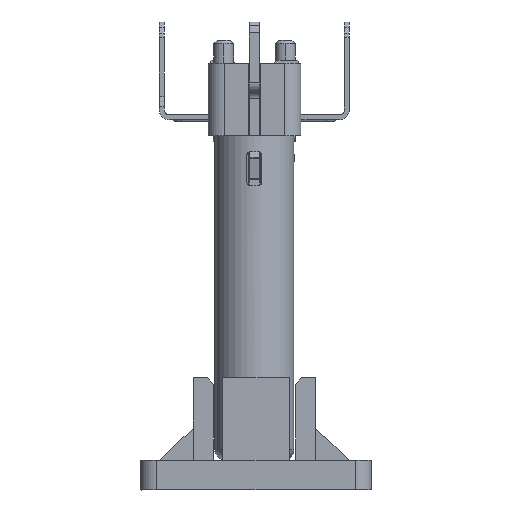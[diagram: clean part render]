
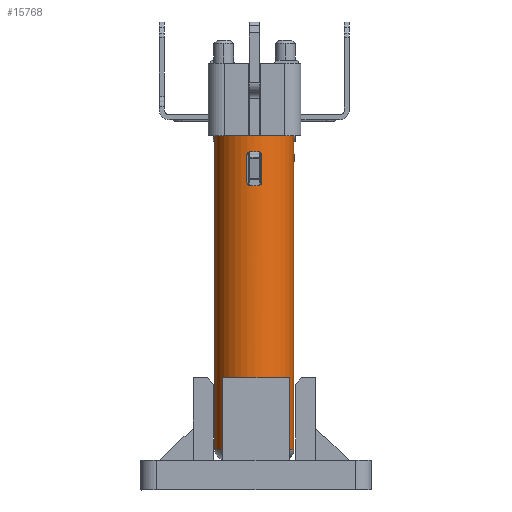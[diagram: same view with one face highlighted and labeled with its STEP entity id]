
A CAD part, left-side view. The second image highlights one B-rep face of the part: STEP entity #15768.
In plain terms, the highlighted cylindrical face has radius 1.2 mm (diameter 2.4 mm), a partial arc.
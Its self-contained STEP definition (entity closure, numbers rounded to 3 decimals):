
#135 = CARTESIAN_POINT ( 'NONE',  ( -4.113, 0.94, -1.132 ) ) ;
#677 = ORIENTED_EDGE ( 'NONE', *, *, #100319, .T. ) ;
#829 = CARTESIAN_POINT ( 'NONE',  ( -4.113, 0.58, -2.152 ) ) ;
#2734 = EDGE_CURVE ( 'NONE', #38655, #95953, #76392, .T. ) ;
#3294 = VERTEX_POINT ( 'NONE', #23201 ) ;
#3499 = EDGE_CURVE ( 'NONE', #99617, #103237, #10608, .T. ) ;
#4924 = CARTESIAN_POINT ( 'NONE',  ( -4.104, 0.535, -1.232 ) ) ;
#6097 = DIRECTION ( 'NONE',  ( 0., 0., -1. ) ) ;
#7507 = EDGE_CURVE ( 'NONE', #31035, #35474, #17037, .T. ) ;
#10608 = CIRCLE ( 'NONE', #25936, 1.2 ) ;
#11929 = LINE ( 'NONE', #44515, #86270 ) ;
#12297 = DIRECTION ( 'NONE',  ( -0.995, -0.104, 0. ) ) ;
#12906 = CARTESIAN_POINT ( 'NONE',  ( -4.118, 0.635, -1.132 ) ) ;
#14099 = FACE_BOUND ( 'NONE', #34150, .T. ) ;
#15240 = DIRECTION ( 'NONE',  ( 0., 0., 1. ) ) ;
#15679 = DIRECTION ( 'NONE',  ( 0., 0., 1. ) ) ;
#15768 = ADVANCED_FACE ( 'NONE', ( #87119, #14099 ), #46674, .T. ) ;
#15827 = EDGE_CURVE ( 'NONE', #38655, #44932, #56233, .T. ) ;
#16301 = CARTESIAN_POINT ( 'NONE',  ( -2.925, 1.96, -0.65 ) ) ;
#16728 = VERTEX_POINT ( 'NONE', #68561 ) ;
#17037 = B_SPLINE_CURVE_WITH_KNOTS ( 'NONE', 3,
 ( #41434, #73876, #829, #33410 ),
 .UNSPECIFIED., .F., .F.,
 ( 4, 4 ),
 ( 0., 1. ),
 .UNSPECIFIED. ) ;
#20846 = DIRECTION ( 'NONE',  ( 0., 0., 1. ) ) ;
#21243 = DIRECTION ( 'NONE',  ( 0., 0., 1. ) ) ;
#21688 = AXIS2_PLACEMENT_3D ( 'NONE', #66018, #98512, #25517 ) ;
#22311 = LINE ( 'NONE', #54869, #55858 ) ;
#22586 = EDGE_CURVE ( 'NONE', #16728, #99617, #38753, .T. ) ;
#23201 = CARTESIAN_POINT ( 'NONE',  ( -4.118, 0.885, -2.152 ) ) ;
#23260 = CARTESIAN_POINT ( 'NONE',  ( -4.118, 0.885, -1.132 ) ) ;
#23486 = CARTESIAN_POINT ( 'NONE',  ( -4.104, 0.535, -2.052 ) ) ;
#25485 = ORIENTED_EDGE ( 'NONE', *, *, #77616, .T. ) ;
#25517 = DIRECTION ( 'NONE',  ( 0., -1., 0. ) ) ;
#25936 = AXIS2_PLACEMENT_3D ( 'NONE', #88246, #15240, #47811 ) ;
#29622 = CIRCLE ( 'NONE', #43241, 1.2 ) ;
#30608 = CARTESIAN_POINT ( 'NONE',  ( -4.104, 0.985, -2.052 ) ) ;
#31035 = VERTEX_POINT ( 'NONE', #23486 ) ;
#31056 = ORIENTED_EDGE ( 'NONE', *, *, #22586, .T. ) ;
#31261 = EDGE_LOOP ( 'NONE', ( #75706, #42946, #95940, #59800 ) ) ;
#31608 = CARTESIAN_POINT ( 'NONE',  ( -4.118, 0.635, -1.132 ) ) ;
#32716 = CARTESIAN_POINT ( 'NONE',  ( -4.118, 0.885, -1.132 ) ) ;
#33410 = CARTESIAN_POINT ( 'NONE',  ( -4.118, 0.635, -2.152 ) ) ;
#34150 = EDGE_LOOP ( 'NONE', ( #79634, #25485, #34627, #42811, #31056, #93985, #677, #40872 ) ) ;
#34627 = ORIENTED_EDGE ( 'NONE', *, *, #63775, .T. ) ;
#35474 = VERTEX_POINT ( 'NONE', #100768 ) ;
#35716 = CARTESIAN_POINT ( 'NONE',  ( -4.104, 0.985, -2.052 ) ) ;
#36773 = CARTESIAN_POINT ( 'NONE',  ( -2.925, -0.44, -0.65 ) ) ;
#37317 = EDGE_CURVE ( 'NONE', #81171, #44932, #67634, .T. ) ;
#38606 = CARTESIAN_POINT ( 'NONE',  ( -4.118, 0.885, -2.152 ) ) ;
#38655 = VERTEX_POINT ( 'NONE', #44335 ) ;
#38673 = DIRECTION ( 'NONE',  ( 0., -1., 0. ) ) ;
#38753 = B_SPLINE_CURVE_WITH_KNOTS ( 'NONE', 3,
 ( #40721, #73180, #135, #32716 ),
 .UNSPECIFIED., .F., .F.,
 ( 4, 4 ),
 ( 0., 1. ),
 .UNSPECIFIED. ) ;
#40721 = CARTESIAN_POINT ( 'NONE',  ( -4.104, 0.985, -1.232 ) ) ;
#40872 = ORIENTED_EDGE ( 'NONE', *, *, #48904, .F. ) ;
#41434 = CARTESIAN_POINT ( 'NONE',  ( -4.104, 0.535, -2.052 ) ) ;
#42811 = ORIENTED_EDGE ( 'NONE', *, *, #51150, .F. ) ;
#42946 = ORIENTED_EDGE ( 'NONE', *, *, #89587, .F. ) ;
#43241 = AXIS2_PLACEMENT_3D ( 'NONE', #52863, #85324, #12297 ) ;
#43923 = VERTEX_POINT ( 'NONE', #102163 ) ;
#44335 = CARTESIAN_POINT ( 'NONE',  ( -2.925, 1.96, -10.15 ) ) ;
#44515 = CARTESIAN_POINT ( 'NONE',  ( -4.104, 0.985, -1.232 ) ) ;
#44932 = VERTEX_POINT ( 'NONE', #16301 ) ;
#45498 = CARTESIAN_POINT ( 'NONE',  ( -4.113, 0.58, -1.132 ) ) ;
#46674 = CYLINDRICAL_SURFACE ( 'NONE', #97807, 1.2 ) ;
#46824 = VECTOR ( 'NONE', #15679, 1000. ) ;
#47811 = DIRECTION ( 'NONE',  ( -0.995, 0.104, 0. ) ) ;
#48904 = EDGE_CURVE ( 'NONE', #31035, #43923, #61342, .T. ) ;
#51150 = EDGE_CURVE ( 'NONE', #16728, #89458, #11929, .T. ) ;
#52863 = CARTESIAN_POINT ( 'NONE',  ( -2.925, 0.76, -2.152 ) ) ;
#53800 = DIRECTION ( 'NONE',  ( 0., 1., 0. ) ) ;
#54869 = CARTESIAN_POINT ( 'NONE',  ( -2.925, -0.44, -0.65 ) ) ;
#55858 = VECTOR ( 'NONE', #87293, 1000. ) ;
#56233 = LINE ( 'NONE', #88687, #46824 ) ;
#59800 = ORIENTED_EDGE ( 'NONE', *, *, #15827, .F. ) ;
#61342 = LINE ( 'NONE', #93833, #102941 ) ;
#62947 = AXIS2_PLACEMENT_3D ( 'NONE', #94245, #21243, #53800 ) ;
#63775 = EDGE_CURVE ( 'NONE', #3294, #89458, #82341, .T. ) ;
#66018 = CARTESIAN_POINT ( 'NONE',  ( -2.925, 0.76, -0.65 ) ) ;
#67634 = CIRCLE ( 'NONE', #21688, 1.2 ) ;
#68561 = CARTESIAN_POINT ( 'NONE',  ( -4.104, 0.985, -1.232 ) ) ;
#71082 = CARTESIAN_POINT ( 'NONE',  ( -4.113, 0.94, -2.152 ) ) ;
#73180 = CARTESIAN_POINT ( 'NONE',  ( -4.104, 0.985, -1.177 ) ) ;
#73876 = CARTESIAN_POINT ( 'NONE',  ( -4.104, 0.535, -2.108 ) ) ;
#75706 = ORIENTED_EDGE ( 'NONE', *, *, #2734, .T. ) ;
#76392 = CIRCLE ( 'NONE', #62947, 1.2 ) ;
#76959 = DIRECTION ( 'NONE',  ( 0., 0., -1. ) ) ;
#77616 = EDGE_CURVE ( 'NONE', #35474, #3294, #29622, .T. ) ;
#77950 = CARTESIAN_POINT ( 'NONE',  ( -4.104, 0.535, -1.177 ) ) ;
#79119 = CARTESIAN_POINT ( 'NONE',  ( -2.925, 0.76, -0.46 ) ) ;
#79634 = ORIENTED_EDGE ( 'NONE', *, *, #7507, .T. ) ;
#81171 = VERTEX_POINT ( 'NONE', #36773 ) ;
#82341 = B_SPLINE_CURVE_WITH_KNOTS ( 'NONE', 3,
 ( #38606, #71082, #103601, #30608 ),
 .UNSPECIFIED., .F., .F.,
 ( 4, 4 ),
 ( 0., 1. ),
 .UNSPECIFIED. ) ;
#84007 = CARTESIAN_POINT ( 'NONE',  ( -2.925, -0.44, -10.15 ) ) ;
#85324 = DIRECTION ( 'NONE',  ( 0., 0., -1. ) ) ;
#86270 = VECTOR ( 'NONE', #76959, 1000. ) ;
#87119 = FACE_OUTER_BOUND ( 'NONE', #31261, .T. ) ;
#87293 = DIRECTION ( 'NONE',  ( 0., 0., -1. ) ) ;
#88246 = CARTESIAN_POINT ( 'NONE',  ( -2.925, 0.76, -1.132 ) ) ;
#88687 = CARTESIAN_POINT ( 'NONE',  ( -2.925, 1.96, -10.15 ) ) ;
#89458 = VERTEX_POINT ( 'NONE', #35716 ) ;
#89587 = EDGE_CURVE ( 'NONE', #81171, #95953, #22311, .T. ) ;
#93833 = CARTESIAN_POINT ( 'NONE',  ( -4.104, 0.535, -2.052 ) ) ;
#93985 = ORIENTED_EDGE ( 'NONE', *, *, #3499, .T. ) ;
#94245 = CARTESIAN_POINT ( 'NONE',  ( -2.925, 0.76, -10.15 ) ) ;
#95940 = ORIENTED_EDGE ( 'NONE', *, *, #37317, .T. ) ;
#95953 = VERTEX_POINT ( 'NONE', #84007 ) ;
#97807 = AXIS2_PLACEMENT_3D ( 'NONE', #79119, #6097, #38673 ) ;
#98452 = B_SPLINE_CURVE_WITH_KNOTS ( 'NONE', 3,
 ( #12906, #45498, #77950, #4924 ),
 .UNSPECIFIED., .F., .F.,
 ( 4, 4 ),
 ( 0., 1. ),
 .UNSPECIFIED. ) ;
#98512 = DIRECTION ( 'NONE',  ( 0., 0., -1. ) ) ;
#99617 = VERTEX_POINT ( 'NONE', #23260 ) ;
#100319 = EDGE_CURVE ( 'NONE', #103237, #43923, #98452, .T. ) ;
#100768 = CARTESIAN_POINT ( 'NONE',  ( -4.118, 0.635, -2.152 ) ) ;
#102163 = CARTESIAN_POINT ( 'NONE',  ( -4.104, 0.535, -1.232 ) ) ;
#102941 = VECTOR ( 'NONE', #20846, 1000. ) ;
#103237 = VERTEX_POINT ( 'NONE', #31608 ) ;
#103601 = CARTESIAN_POINT ( 'NONE',  ( -4.104, 0.985, -2.108 ) ) ;
